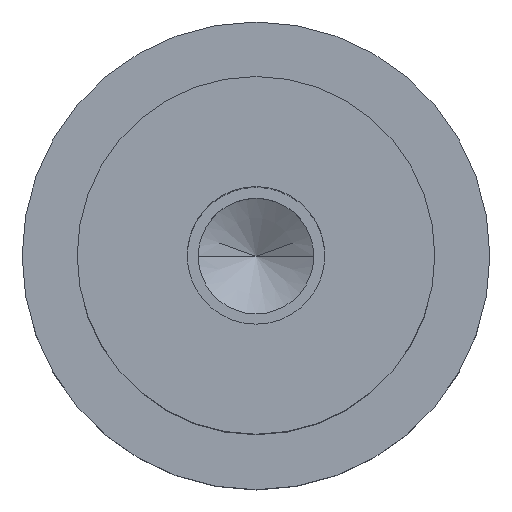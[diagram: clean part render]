
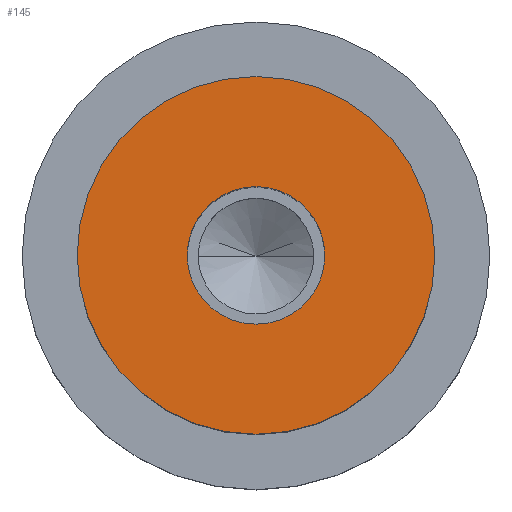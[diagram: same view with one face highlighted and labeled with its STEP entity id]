
A CAD part, top view. The second image highlights one B-rep face of the part: STEP entity #145.
In plain terms, the highlighted planar face has unit normal (0, 0, 1).
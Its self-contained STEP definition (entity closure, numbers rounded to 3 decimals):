
#100=PLANE('',#553);
#108=FACE_BOUND('',#205,.T.);
#109=FACE_BOUND('',#206,.T.);
#145=ADVANCED_FACE('',(#108,#109),#100,.T.);
#205=EDGE_LOOP('',(#299,#300));
#206=EDGE_LOOP('',(#301,#302));
#241=CIRCLE('',#547,2.5);
#242=CIRCLE('',#549,2.5);
#243=CIRCLE('',#551,6.5);
#244=CIRCLE('',#552,6.5);
#299=ORIENTED_EDGE('',*,*,#445,.F.);
#300=ORIENTED_EDGE('',*,*,#446,.F.);
#301=ORIENTED_EDGE('',*,*,#444,.T.);
#302=ORIENTED_EDGE('',*,*,#442,.T.);
#400=VERTEX_POINT('',#791);
#401=VERTEX_POINT('',#793);
#402=VERTEX_POINT('',#799);
#403=VERTEX_POINT('',#800);
#442=EDGE_CURVE('',#401,#400,#241,.T.);
#444=EDGE_CURVE('',#400,#401,#242,.T.);
#445=EDGE_CURVE('',#402,#403,#243,.T.);
#446=EDGE_CURVE('',#403,#402,#244,.T.);
#547=AXIS2_PLACEMENT_3D('',#792,#634,#635);
#549=AXIS2_PLACEMENT_3D('',#796,#639,#640);
#551=AXIS2_PLACEMENT_3D('',#798,#643,#644);
#552=AXIS2_PLACEMENT_3D('',#801,#645,#646);
#553=AXIS2_PLACEMENT_3D('',#802,#647,#648);
#634=DIRECTION('',(0.,0.,-1.));
#635=DIRECTION('',(0.,1.,0.));
#639=DIRECTION('',(0.,0.,-1.));
#640=DIRECTION('',(0.,-1.,0.));
#643=DIRECTION('',(0.,0.,-1.));
#644=DIRECTION('',(0.,1.,0.));
#645=DIRECTION('',(0.,0.,-1.));
#646=DIRECTION('',(0.,-1.,0.));
#647=DIRECTION('',(0.,0.,1.));
#648=DIRECTION('',(0.,-1.,0.));
#791=CARTESIAN_POINT('',(-2.5,0.,10.));
#792=CARTESIAN_POINT('',(0.,0.,10.));
#793=CARTESIAN_POINT('',(2.5,0.,10.));
#796=CARTESIAN_POINT('',(0.,0.,10.));
#798=CARTESIAN_POINT('',(0.,0.,10.));
#799=CARTESIAN_POINT('',(6.5,0.,10.));
#800=CARTESIAN_POINT('',(-6.5,0.,10.));
#801=CARTESIAN_POINT('',(0.,0.,10.));
#802=CARTESIAN_POINT('',(0.,0.,10.));
